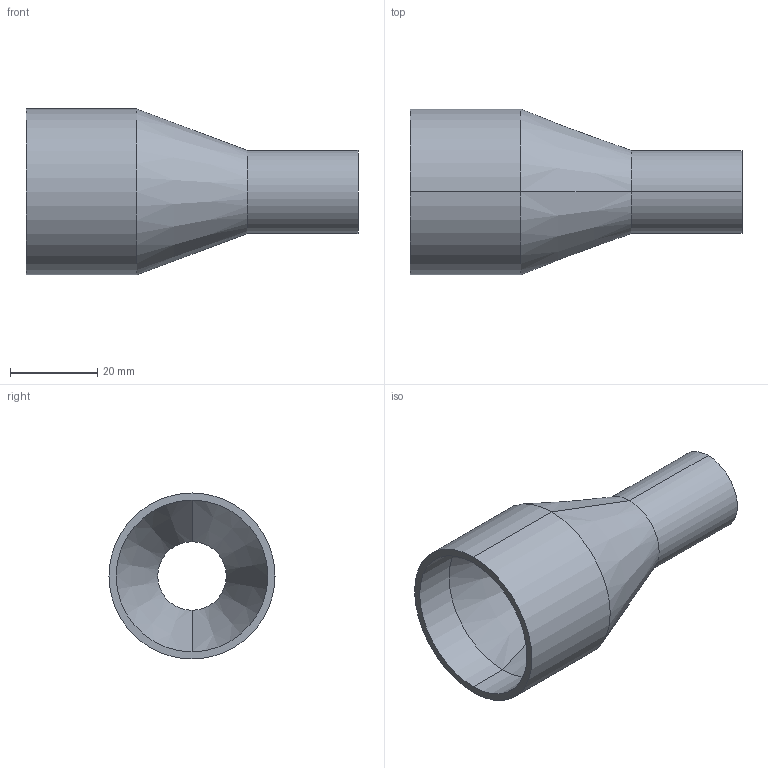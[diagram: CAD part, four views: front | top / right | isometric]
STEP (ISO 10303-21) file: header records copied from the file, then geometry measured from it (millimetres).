
FILE_DESCRIPTION (( 'STEP AP214' ), '1' );
FILE_NAME ('TE31SWW6L1.5x.75-...STEP', '2016-05-29T09:36:25', ( 'eran' ), ( '' ), 'SwSTEP 2.0', 'SolidWorks 2016', '' );
FILE_SCHEMA (( 'AUTOMOTIVE_DESIGN' ));
Length unit declared in the file: millimetre
Products named in the file (1): TE31SWW6L1.5x.75-..
Bounding box: 76.2 x 38.1 x 38.1 mm (x, y, z)
Volume: 23873.5 mm3; surface area: 12422.6 mm2
Topology: 1 solids, 1 shells, 14 faces, 28 edges, 16 vertices
Faces by surface type: cylinder 8, cone 4, plane 2
Entity records: 402 total; most frequent: DIRECTION 74, CARTESIAN_POINT 59, ORIENTED_EDGE 56, AXIS2_PLACEMENT_3D 31, EDGE_CURVE 28, EDGE_LOOP 16, VERTEX_POINT 16, CIRCLE 16
